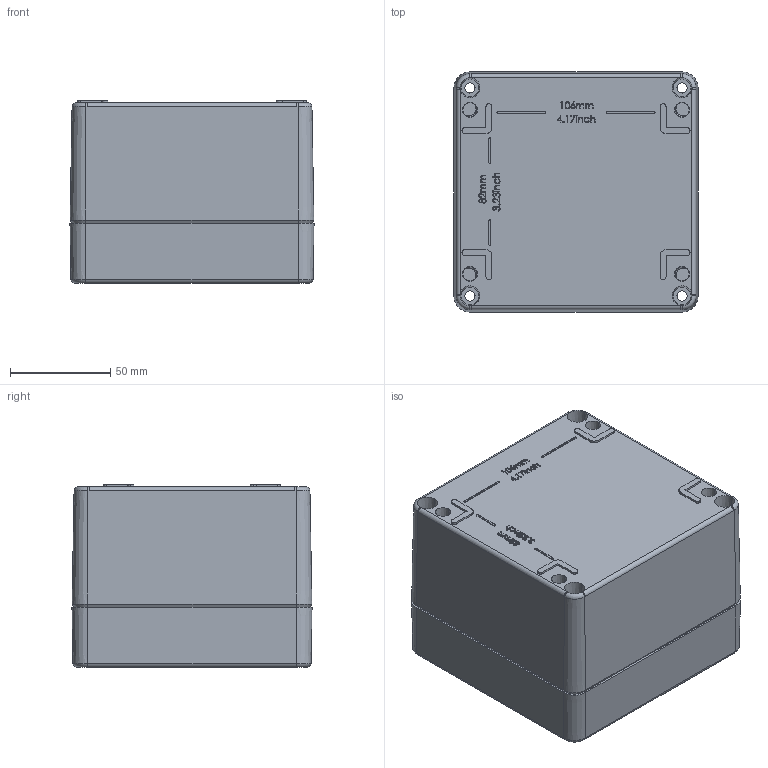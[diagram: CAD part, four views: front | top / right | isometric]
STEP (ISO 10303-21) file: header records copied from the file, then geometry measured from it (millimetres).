
FILE_DESCRIPTION (( 'STEP AP203' ), '1' );
FILE_NAME ('ALU ASSY 12212090.STEP', '2024-08-27T07:32:10', ( '' ), ( '' ), 'SwSTEP 2.0', 'SolidWorks 2018', '' );
FILE_SCHEMA (( 'CONFIG_CONTROL_DESIGN' ));
Length unit declared in the file: millimetre
Products named in the file (3): ALU ASSY 12212090; ALU LID 12212090; ALU BASE 12212090
Assembly tree (2 placements, depth 2):
  ALU ASSY 12212090
    ALU BASE 12212090
    ALU LID 12212090
Bounding box: 122 x 120 x 91 mm (x, y, z)
Volume: 351354.4 mm3; surface area: 156577.4 mm2
Topology: 2 solids, 2 shells, 1003 faces, 2483 edges, 1571 vertices
Faces by surface type: plane 432, bspline 186, cylinder 173, cone 147, torus 65
Entity records: 41479 total; most frequent: CARTESIAN_POINT 18286, ORIENTED_EDGE 4944, DIRECTION 4323, EDGE_CURVE 2472, VERTEX_POINT 1571, LINE 1445, VECTOR 1445, AXIS2_PLACEMENT_3D 1439
